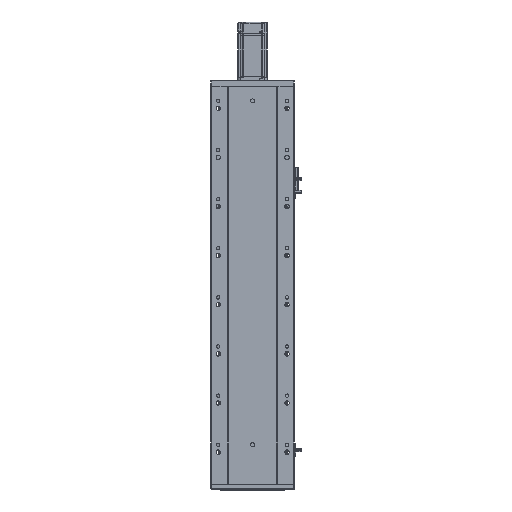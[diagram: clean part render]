
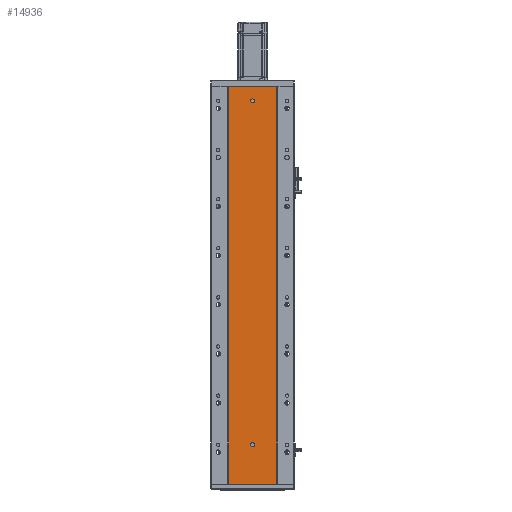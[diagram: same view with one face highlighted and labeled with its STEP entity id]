
A CAD part, front view. The second image highlights one B-rep face of the part: STEP entity #14936.
In plain terms, the highlighted planar face has unit normal (0, -1, 0).
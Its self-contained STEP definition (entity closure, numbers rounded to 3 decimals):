
#3087 = DIRECTION ( 'NONE',  ( 0., -1., 0. ) ) ;
#3093 = DIRECTION ( 'NONE',  ( 0., 0., -1. ) ) ;
#3116 = CARTESIAN_POINT ( 'NONE',  ( 136.47, 79.476, 780. ) ) ;
#3328 = EDGE_CURVE ( 'NONE', #60388, #60429, #21340, .T. ) ;
#3381 = EDGE_CURVE ( 'NONE', #60507, #60429, #36029, .T. ) ;
#3398 = EDGE_CURVE ( 'NONE', #60407, #60507, #39790, .T. ) ;
#3399 = EDGE_CURVE ( 'NONE', #60407, #60388, #36030, .T. ) ;
#3409 = EDGE_CURVE ( 'NONE', #64228, #64233, #39768, .T. ) ;
#3412 = EDGE_CURVE ( 'NONE', #64216, #64255, #39778, .T. ) ;
#3900 = AXIS2_PLACEMENT_3D ( 'NONE', #42827, #42825, #42820 ) ;
#3909 = AXIS2_PLACEMENT_3D ( 'NONE', #42753, #42758, #42759 ) ;
#6944 = CIRCLE ( 'NONE', #29663, 4. ) ;
#7108 = CIRCLE ( 'NONE', #29686, 4. ) ;
#14936 = ADVANCED_FACE ( 'NONE', ( #30747, #30778, #30723 ), #32505, .F. ) ;
#18961 = EDGE_LOOP ( 'NONE', ( #50947, #50992, #50901, #50923 ) ) ;
#18999 = EDGE_LOOP ( 'NONE', ( #50911, #51005 ) ) ;
#19045 = EDGE_LOOP ( 'NONE', ( #50937, #50916 ) ) ;
#21340 = LINE ( 'NONE', #42557, #21382 ) ;
#21382 = VECTOR ( 'NONE', #42534, 1000. ) ;
#25567 = CARTESIAN_POINT ( 'NONE',  ( 86.97, 79.476, 0. ) ) ;
#25617 = CARTESIAN_POINT ( 'NONE',  ( 86.97, 79.476, 810. ) ) ;
#25628 = CARTESIAN_POINT ( 'NONE',  ( 185.97, 79.476, 0. ) ) ;
#25688 = CARTESIAN_POINT ( 'NONE',  ( 185.97, 79.476, 810. ) ) ;
#26060 = CARTESIAN_POINT ( 'NONE',  ( 136.47, 79.476, 776. ) ) ;
#26073 = CARTESIAN_POINT ( 'NONE',  ( 136.47, 79.476, 76. ) ) ;
#26127 = CARTESIAN_POINT ( 'NONE',  ( 136.47, 79.476, 784. ) ) ;
#26136 = CARTESIAN_POINT ( 'NONE',  ( 136.47, 79.476, 84. ) ) ;
#29663 = AXIS2_PLACEMENT_3D ( 'NONE', #3116, #3087, #3093 ) ;
#29686 = AXIS2_PLACEMENT_3D ( 'NONE', #55464, #55468, #55597 ) ;
#30723 = FACE_OUTER_BOUND ( 'NONE', #18961, .T. ) ;
#30747 = FACE_BOUND ( 'NONE', #18999, .T. ) ;
#30778 = FACE_BOUND ( 'NONE', #19045, .T. ) ;
#32470 = CARTESIAN_POINT ( 'NONE',  ( 0., 79.476, 810. ) ) ;
#32495 = DIRECTION ( 'NONE',  ( 0., 0., 1. ) ) ;
#32505 = PLANE ( 'NONE',  #61966 ) ;
#32510 = DIRECTION ( 'NONE',  ( 0., 1., 0. ) ) ;
#36029 = B_SPLINE_CURVE_WITH_KNOTS ( 'NONE', 3,
 ( #42673, #42681, #42661, #42684 ),
 .UNSPECIFIED., .F., .F.,
 ( 4, 4 ),
 ( 0., 1. ),
 .UNSPECIFIED. ) ;
#36030 = B_SPLINE_CURVE_WITH_KNOTS ( 'NONE', 3,
 ( #42773, #42788, #42778, #42774 ),
 .UNSPECIFIED., .F., .F.,
 ( 4, 4 ),
 ( 0., 1. ),
 .UNSPECIFIED. ) ;
#39768 = CIRCLE ( 'NONE', #3909, 4. ) ;
#39778 = CIRCLE ( 'NONE', #3900, 4. ) ;
#39790 = LINE ( 'NONE', #42771, #39803 ) ;
#39803 = VECTOR ( 'NONE', #42777, 1000. ) ;
#42534 = DIRECTION ( 'NONE',  ( 1., 0., 0. ) ) ;
#42557 = CARTESIAN_POINT ( 'NONE',  ( 0., 79.476, 0. ) ) ;
#42661 = CARTESIAN_POINT ( 'NONE',  ( 185.97, 79.476, 270. ) ) ;
#42673 = CARTESIAN_POINT ( 'NONE',  ( 185.97, 79.476, 810. ) ) ;
#42681 = CARTESIAN_POINT ( 'NONE',  ( 185.97, 79.476, 540. ) ) ;
#42684 = CARTESIAN_POINT ( 'NONE',  ( 185.97, 79.476, 0. ) ) ;
#42753 = CARTESIAN_POINT ( 'NONE',  ( 136.47, 79.476, 80. ) ) ;
#42758 = DIRECTION ( 'NONE',  ( 0., -1., 0. ) ) ;
#42759 = DIRECTION ( 'NONE',  ( 0., 0., -1. ) ) ;
#42771 = CARTESIAN_POINT ( 'NONE',  ( 0., 79.476, 810. ) ) ;
#42773 = CARTESIAN_POINT ( 'NONE',  ( 86.97, 79.476, 810. ) ) ;
#42774 = CARTESIAN_POINT ( 'NONE',  ( 86.97, 79.476, 0. ) ) ;
#42777 = DIRECTION ( 'NONE',  ( 1., 0., 0. ) ) ;
#42778 = CARTESIAN_POINT ( 'NONE',  ( 86.97, 79.476, 270. ) ) ;
#42788 = CARTESIAN_POINT ( 'NONE',  ( 86.97, 79.476, 540. ) ) ;
#42820 = DIRECTION ( 'NONE',  ( 0., 0., -1. ) ) ;
#42825 = DIRECTION ( 'NONE',  ( 0., -1., 0. ) ) ;
#42827 = CARTESIAN_POINT ( 'NONE',  ( 136.47, 79.476, 780. ) ) ;
#50901 = ORIENTED_EDGE ( 'NONE', *, *, #3398, .F. ) ;
#50911 = ORIENTED_EDGE ( 'NONE', *, *, #3412, .F. ) ;
#50916 = ORIENTED_EDGE ( 'NONE', *, *, #51979, .F. ) ;
#50923 = ORIENTED_EDGE ( 'NONE', *, *, #3399, .T. ) ;
#50937 = ORIENTED_EDGE ( 'NONE', *, *, #3409, .F. ) ;
#50947 = ORIENTED_EDGE ( 'NONE', *, *, #3328, .T. ) ;
#50992 = ORIENTED_EDGE ( 'NONE', *, *, #3381, .F. ) ;
#51005 = ORIENTED_EDGE ( 'NONE', *, *, #51884, .F. ) ;
#51884 = EDGE_CURVE ( 'NONE', #64255, #64216, #6944, .T. ) ;
#51979 = EDGE_CURVE ( 'NONE', #64233, #64228, #7108, .T. ) ;
#55464 = CARTESIAN_POINT ( 'NONE',  ( 136.47, 79.476, 80. ) ) ;
#55468 = DIRECTION ( 'NONE',  ( 0., -1., 0. ) ) ;
#55597 = DIRECTION ( 'NONE',  ( 0., 0., -1. ) ) ;
#60388 = VERTEX_POINT ( 'NONE', #25567 ) ;
#60407 = VERTEX_POINT ( 'NONE', #25617 ) ;
#60429 = VERTEX_POINT ( 'NONE', #25628 ) ;
#60507 = VERTEX_POINT ( 'NONE', #25688 ) ;
#61966 = AXIS2_PLACEMENT_3D ( 'NONE', #32470, #32510, #32495 ) ;
#64216 = VERTEX_POINT ( 'NONE', #26060 ) ;
#64228 = VERTEX_POINT ( 'NONE', #26073 ) ;
#64233 = VERTEX_POINT ( 'NONE', #26136 ) ;
#64255 = VERTEX_POINT ( 'NONE', #26127 ) ;
